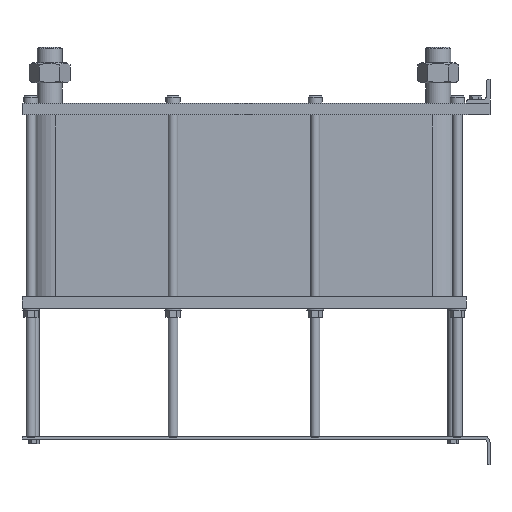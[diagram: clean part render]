
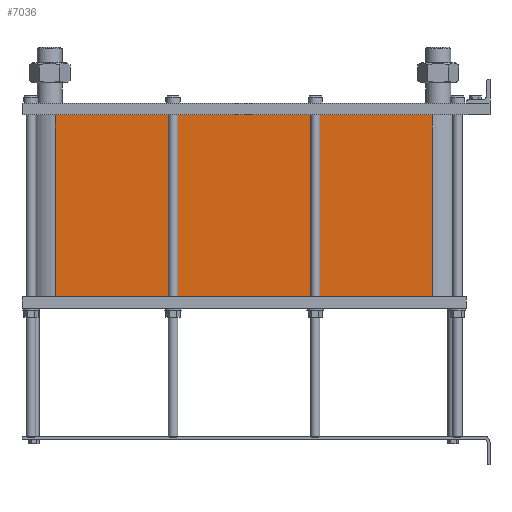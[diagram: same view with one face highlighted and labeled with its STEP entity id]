
A CAD part, left-side view. The second image highlights one B-rep face of the part: STEP entity #7036.
In plain terms, the highlighted planar face has unit normal (-1, 0, 0).
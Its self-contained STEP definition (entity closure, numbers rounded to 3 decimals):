
#999=LINE('',#15640,#1553);
#1031=LINE('',#15723,#1585);
#1032=LINE('',#15726,#1586);
#1033=LINE('',#15727,#1587);
#1553=VECTOR('',#9658,10.);
#1585=VECTOR('',#9736,10.);
#1586=VECTOR('',#9741,10.);
#1587=VECTOR('',#9742,10.);
#2117=FACE_OUTER_BOUND('',#2671,.T.);
#2671=EDGE_LOOP('',(#6246,#6247,#6248,#6249));
#3527=VERTEX_POINT('',#15634);
#3529=VERTEX_POINT('',#15638);
#3556=VERTEX_POINT('',#15720);
#3557=VERTEX_POINT('',#15722);
#4425=EDGE_CURVE('',#3529,#3527,#999,.T.);
#4466=EDGE_CURVE('',#3557,#3556,#1031,.T.);
#4468=EDGE_CURVE('',#3527,#3556,#1032,.T.);
#4469=EDGE_CURVE('',#3557,#3529,#1033,.T.);
#6246=ORIENTED_EDGE('',*,*,#4468,.F.);
#6247=ORIENTED_EDGE('',*,*,#4425,.F.);
#6248=ORIENTED_EDGE('',*,*,#4469,.F.);
#6249=ORIENTED_EDGE('',*,*,#4466,.T.);
#6608=PLANE('',#7812);
#7036=ADVANCED_FACE('',(#2117),#6608,.T.);
#7812=AXIS2_PLACEMENT_3D('',#15725,#9739,#9740);
#9658=DIRECTION('',(0.,0.,-1.));
#9736=DIRECTION('',(0.,0.,-1.));
#9739=DIRECTION('center_axis',(-1.,0.,0.));
#9740=DIRECTION('ref_axis',(0.,1.,0.));
#9741=DIRECTION('',(0.,1.,0.));
#9742=DIRECTION('',(0.,-1.,0.));
#15634=CARTESIAN_POINT('',(-72.,97.5,-306.9));
#15638=CARTESIAN_POINT('',(-72.,97.5,0.));
#15640=CARTESIAN_POINT('',(-72.,97.5,0.));
#15720=CARTESIAN_POINT('',(-72.,733.5,-306.9));
#15722=CARTESIAN_POINT('',(-72.,733.5,0.));
#15723=CARTESIAN_POINT('',(-72.,733.5,0.));
#15725=CARTESIAN_POINT('Origin',(-72.,97.5,0.));
#15726=CARTESIAN_POINT('',(-72.,256.5,-306.9));
#15727=CARTESIAN_POINT('',(-72.,733.5,0.));
